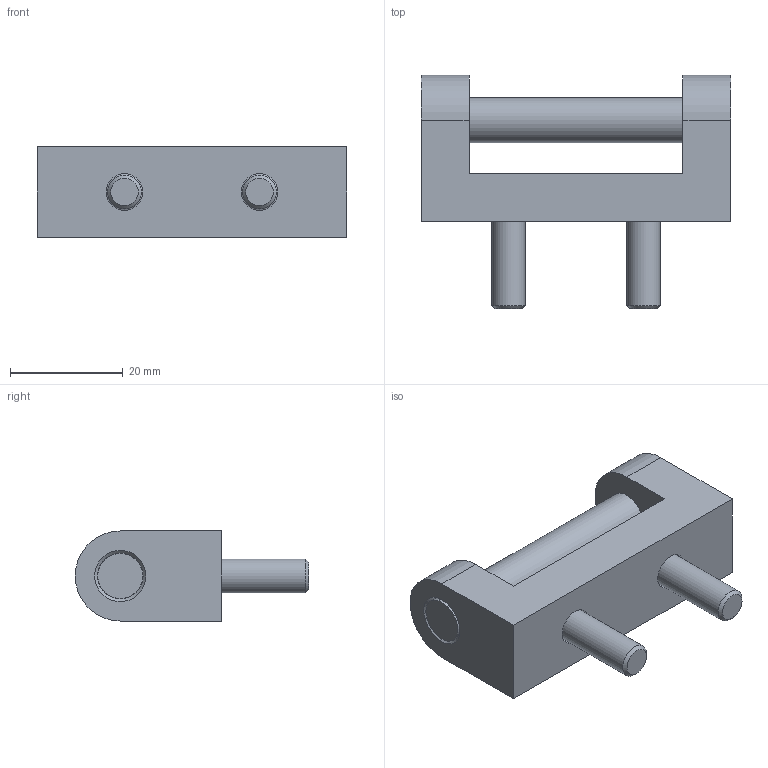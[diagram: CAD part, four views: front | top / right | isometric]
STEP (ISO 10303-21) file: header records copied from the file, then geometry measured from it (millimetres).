
FILE_DESCRIPTION (( 'STEP AP214' ), '1' );
FILE_NAME ('L11107 AVEC ACCESSOIRES.step', '2024-12-03T16:21:34', ( '' ), ( '' ), 'SwSTEP 2.0', 'SolidWorks 2023', '' );
FILE_SCHEMA (( 'AUTOMOTIVE_DESIGN' ));
Length unit declared in the file: millimetre
Products named in the file (4): socket button head screw_APC_Vis BHC - M6 x 20 - 20N; L11107_L11107; N30124; L11107 AVEC ACCESSOIRES
Assembly tree (4 placements, depth 2):
  L11107 AVEC ACCESSOIRES
    L11107_L11107
    N30124
    socket button head screw_APC_Vis BHC - M6 x 20 - 20N  x2
Bounding box: 55 x 41.5 x 16 mm (x, y, z)
Volume: 14015.1 mm3; surface area: 7751.1 mm2
Topology: 4 solids, 4 shells, 67 faces, 142 edges, 90 vertices
Faces by surface type: plane 43, cylinder 14, cone 6, sphere 2, torus 2
Full cylindrical faces by diameter (mm): 6 x2, 6.5 x2, 8 x1, 8.1 x2, 8.3 x1, 10.5 x2, 11.5 x2
Entity records: 1275 total; most frequent: DIRECTION 220, CARTESIAN_POINT 191, ORIENTED_EDGE 158, AXIS2_PLACEMENT_3D 88, EDGE_CURVE 79, EDGE_LOOP 74, VERTEX_POINT 59, FACE_OUTER_BOUND 58
